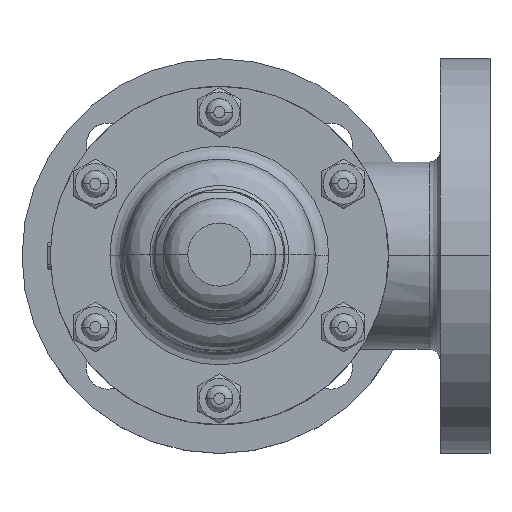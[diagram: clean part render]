
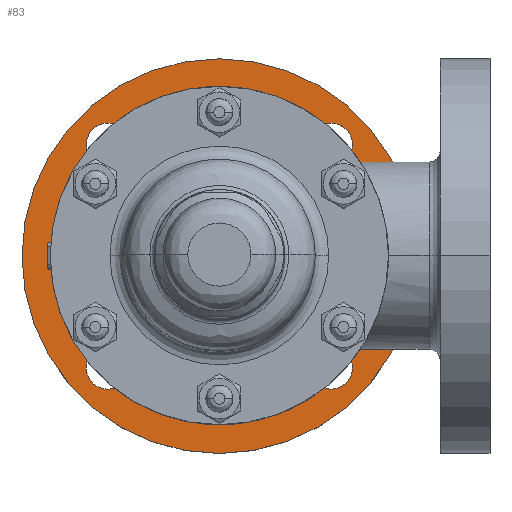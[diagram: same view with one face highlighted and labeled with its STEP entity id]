
A CAD part, top view. The second image highlights one B-rep face of the part: STEP entity #83.
In plain terms, the highlighted planar face has unit normal (0, 0, 1).
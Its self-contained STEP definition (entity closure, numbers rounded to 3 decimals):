
#83=ADVANCED_FACE('',(#753,#754,#755,#756,#757,#758),#752,.T.);
#752=PLANE('',#3144);
#753=FACE_OUTER_BOUND('',#3145,.T.);
#754=FACE_BOUND('',#3146,.T.);
#755=FACE_BOUND('',#3147,.T.);
#756=FACE_BOUND('',#3148,.T.);
#757=FACE_BOUND('',#3149,.T.);
#758=FACE_BOUND('',#3150,.T.);
#3141=CARTESIAN_POINT('',(-97.5,-161.554,-98.));
#3142=DIRECTION('',(0.,0.,1.));
#3143=DIRECTION('',(1.,0.,0.));
#3144=AXIS2_PLACEMENT_3D('',#3141,#3142,#3143);
#3145=EDGE_LOOP('',(#5368,#5369));
#3146=EDGE_LOOP('',(#5370,#5371));
#3147=EDGE_LOOP('',(#5372,#5373));
#3148=EDGE_LOOP('',(#5374,#5375));
#3149=EDGE_LOOP('',(#5376,#5377));
#3150=EDGE_LOOP('',(#5378,#5379));
#5368=ORIENTED_EDGE('',*,*,#6554,.F.);
#5369=ORIENTED_EDGE('',*,*,#6555,.F.);
#5370=ORIENTED_EDGE('',*,*,#6556,.F.);
#5371=ORIENTED_EDGE('',*,*,#6557,.F.);
#5372=ORIENTED_EDGE('',*,*,#6558,.T.);
#5373=ORIENTED_EDGE('',*,*,#6559,.T.);
#5374=ORIENTED_EDGE('',*,*,#6560,.F.);
#5375=ORIENTED_EDGE('',*,*,#6561,.F.);
#5376=ORIENTED_EDGE('',*,*,#6562,.F.);
#5377=ORIENTED_EDGE('',*,*,#6563,.F.);
#5378=ORIENTED_EDGE('',*,*,#6564,.F.);
#5379=ORIENTED_EDGE('',*,*,#6565,.F.);
#6554=EDGE_CURVE('',#8534,#8535,#8536,.T.);
#6555=EDGE_CURVE('',#8535,#8534,#8542,.T.);
#6556=EDGE_CURVE('',#8548,#8549,#8550,.T.);
#6557=EDGE_CURVE('',#8549,#8548,#8556,.T.);
#6558=EDGE_CURVE('',#8562,#8563,#8564,.T.);
#6559=EDGE_CURVE('',#8563,#8562,#8570,.T.);
#6560=EDGE_CURVE('',#8576,#8577,#8578,.T.);
#6561=EDGE_CURVE('',#8577,#8576,#8584,.T.);
#6562=EDGE_CURVE('',#8590,#8591,#8592,.T.);
#6563=EDGE_CURVE('',#8591,#8590,#8598,.T.);
#6564=EDGE_CURVE('',#8604,#8605,#8606,.T.);
#6565=EDGE_CURVE('',#8605,#8604,#8612,.T.);
#8534=VERTEX_POINT('',#12418);
#8535=VERTEX_POINT('',#12419);
#8536=CIRCLE('',#12423,87.5);
#8542=CIRCLE('',#12427,87.5);
#8548=VERTEX_POINT('',#12428);
#8549=VERTEX_POINT('',#12429);
#8550=CIRCLE('',#12433,9.5);
#8556=CIRCLE('',#12437,9.5);
#8562=VERTEX_POINT('',#12438);
#8563=VERTEX_POINT('',#12439);
#8564=CIRCLE('',#12443,46.5);
#8570=CIRCLE('',#12447,46.5);
#8576=VERTEX_POINT('',#12448);
#8577=VERTEX_POINT('',#12449);
#8578=CIRCLE('',#12453,9.5);
#8584=CIRCLE('',#12457,9.5);
#8590=VERTEX_POINT('',#12458);
#8591=VERTEX_POINT('',#12459);
#8592=CIRCLE('',#12463,9.5);
#8598=CIRCLE('',#12467,9.5);
#8604=VERTEX_POINT('',#12468);
#8605=VERTEX_POINT('',#12469);
#8606=CIRCLE('',#12473,9.5);
#8612=CIRCLE('',#12477,9.5);
#12418=CARTESIAN_POINT('',(87.5,0.,-98.));
#12419=CARTESIAN_POINT('',(-87.5,0.,-98.));
#12420=CARTESIAN_POINT('',(0.,0.,-98.));
#12421=DIRECTION('',(0.,0.,-1.));
#12422=DIRECTION('',(-1.,0.,0.));
#12423=AXIS2_PLACEMENT_3D('',#12420,#12421,#12422);
#12424=CARTESIAN_POINT('',(0.,0.,-98.));
#12425=DIRECTION('',(0.,0.,-1.));
#12426=DIRECTION('',(-1.,0.,0.));
#12427=AXIS2_PLACEMENT_3D('',#12424,#12425,#12426);
#12428=CARTESIAN_POINT('',(58.997,49.497,-98.));
#12429=CARTESIAN_POINT('',(39.997,49.497,-98.));
#12430=CARTESIAN_POINT('',(49.497,49.497,-98.));
#12431=DIRECTION('',(0.,0.,1.));
#12432=DIRECTION('',(-1.,0.,0.));
#12433=AXIS2_PLACEMENT_3D('',#12430,#12431,#12432);
#12434=CARTESIAN_POINT('',(49.497,49.497,-98.));
#12435=DIRECTION('',(0.,0.,1.));
#12436=DIRECTION('',(-1.,0.,0.));
#12437=AXIS2_PLACEMENT_3D('',#12434,#12435,#12436);
#12438=CARTESIAN_POINT('',(-46.5,0.,-98.));
#12439=CARTESIAN_POINT('',(46.5,0.,-98.));
#12440=CARTESIAN_POINT('',(0.,0.,-98.));
#12441=DIRECTION('',(0.,0.,-1.));
#12442=DIRECTION('',(-1.,0.,0.));
#12443=AXIS2_PLACEMENT_3D('',#12440,#12441,#12442);
#12444=CARTESIAN_POINT('',(0.,0.,-98.));
#12445=DIRECTION('',(0.,0.,-1.));
#12446=DIRECTION('',(-1.,0.,0.));
#12447=AXIS2_PLACEMENT_3D('',#12444,#12445,#12446);
#12448=CARTESIAN_POINT('',(-39.997,-49.497,-98.));
#12449=CARTESIAN_POINT('',(-58.997,-49.497,-98.));
#12450=CARTESIAN_POINT('',(-49.497,-49.497,-98.));
#12451=DIRECTION('',(0.,0.,1.));
#12452=DIRECTION('',(-1.,0.,0.));
#12453=AXIS2_PLACEMENT_3D('',#12450,#12451,#12452);
#12454=CARTESIAN_POINT('',(-49.497,-49.497,-98.));
#12455=DIRECTION('',(0.,0.,1.));
#12456=DIRECTION('',(-1.,0.,0.));
#12457=AXIS2_PLACEMENT_3D('',#12454,#12455,#12456);
#12458=CARTESIAN_POINT('',(58.997,-49.497,-98.));
#12459=CARTESIAN_POINT('',(39.997,-49.497,-98.));
#12460=CARTESIAN_POINT('',(49.497,-49.497,-98.));
#12461=DIRECTION('',(0.,0.,1.));
#12462=DIRECTION('',(-1.,0.,0.));
#12463=AXIS2_PLACEMENT_3D('',#12460,#12461,#12462);
#12464=CARTESIAN_POINT('',(49.497,-49.497,-98.));
#12465=DIRECTION('',(0.,0.,1.));
#12466=DIRECTION('',(-1.,0.,0.));
#12467=AXIS2_PLACEMENT_3D('',#12464,#12465,#12466);
#12468=CARTESIAN_POINT('',(-39.997,49.497,-98.));
#12469=CARTESIAN_POINT('',(-58.997,49.497,-98.));
#12470=CARTESIAN_POINT('',(-49.497,49.497,-98.));
#12471=DIRECTION('',(0.,0.,1.));
#12472=DIRECTION('',(-1.,0.,0.));
#12473=AXIS2_PLACEMENT_3D('',#12470,#12471,#12472);
#12474=CARTESIAN_POINT('',(-49.497,49.497,-98.));
#12475=DIRECTION('',(0.,0.,1.));
#12476=DIRECTION('',(-1.,0.,0.));
#12477=AXIS2_PLACEMENT_3D('',#12474,#12475,#12476);
